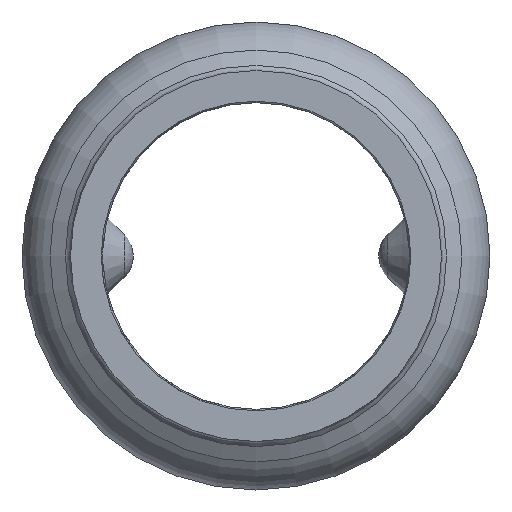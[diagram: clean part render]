
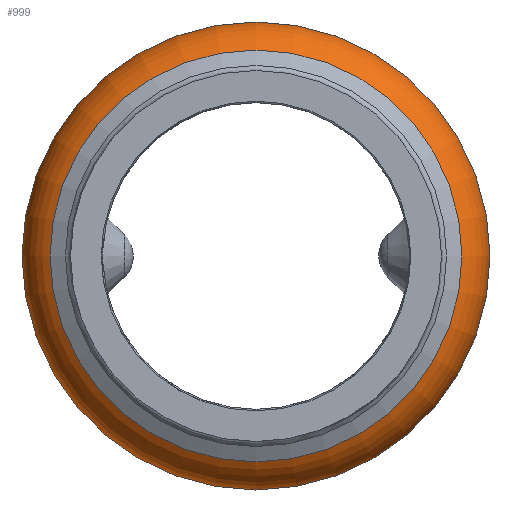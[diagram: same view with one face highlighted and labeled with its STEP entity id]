
A CAD part, left-side view. The second image highlights one B-rep face of the part: STEP entity #999.
In plain terms, the highlighted toroidal (fillet/blend) face has major radius 8.7 mm and minor radius 2.75 mm.
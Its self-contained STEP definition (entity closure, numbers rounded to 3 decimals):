
#865=CARTESIAN_POINT('',(-64.382,10.075,0.0));
#866=VERTEX_POINT('',#865);
#867=CARTESIAN_POINT('',(-64.382,0.0,0.0));
#868=DIRECTION('',(1.0,0.0,0.0));
#869=DIRECTION('',(0.0,1.0,0.0));
#870=AXIS2_PLACEMENT_3D('',#867,#868,#869);
#871=CIRCLE('',#870,10.075);
#872=EDGE_CURVE('',#866,#866,#871,.T.);
#933=CARTESIAN_POINT('',(-59.352,9.44,0.));
#934=VERTEX_POINT('',#933);
#935=CARTESIAN_POINT('',(-59.352,0.0,0.0));
#936=DIRECTION('',(1.0,0.0,0.0));
#937=DIRECTION('',(0.0,-1.0,0.0));
#938=AXIS2_PLACEMENT_3D('',#935,#936,#937);
#939=CIRCLE('',#938,9.44);
#940=EDGE_CURVE('',#934,#934,#939,.T.);
#988=CARTESIAN_POINT('',(-62.,0.0,0.0));
#989=DIRECTION('',(1.0,0.0,0.0));
#990=DIRECTION('',(0.0,0.0,-1.0));
#991=AXIS2_PLACEMENT_3D('',#988,#989,#990);
#992=TOROIDAL_SURFACE('',#991,8.7,2.75);
#993=ORIENTED_EDGE('',*,*,#872,.T.);
#994=EDGE_LOOP('',(#993));
#995=FACE_OUTER_BOUND('',#994,.T.);
#996=ORIENTED_EDGE('',*,*,#940,.F.);
#997=EDGE_LOOP('',(#996));
#998=FACE_BOUND('',#997,.T.);
#999=ADVANCED_FACE('',(#995,#998),#992,.T.);
